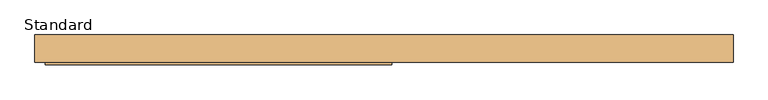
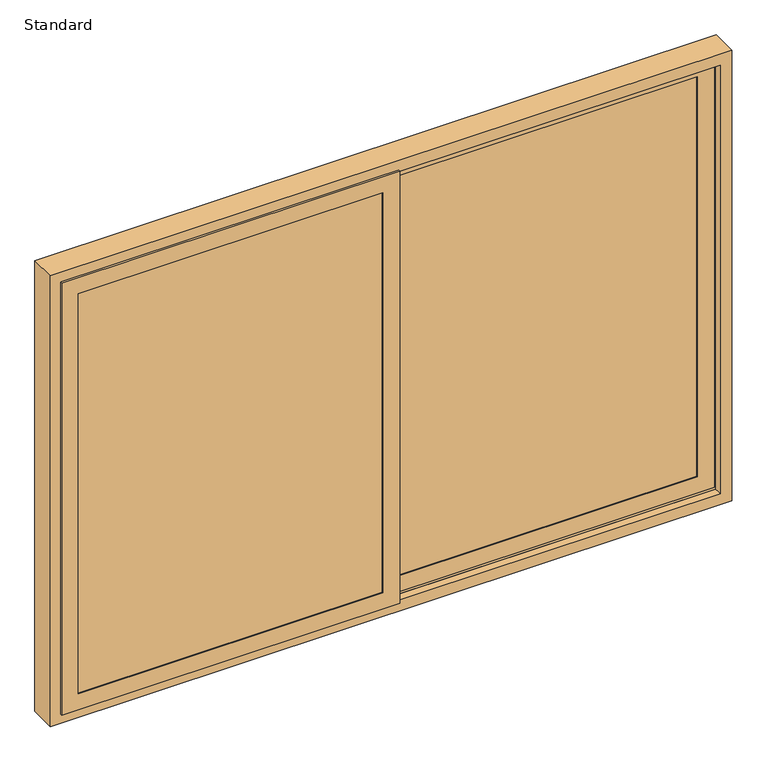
"""IFC4 building model written with IfcOpenShell, lengths in millimetres: door geometry, SMARTS_Visoglide Plus : Standard."""

from ifc_helpers import new_model, si_unit, frame, origin, place, context, project, spatial, polyline, outline, extrude, faceted_brep, source, transform, mapped, element, save


def standard_94ef009a(model_context):
    return source(origin(), model_context, "Body", "SolidModel", [
        extrude(outline(polyline([(1392.5, 67.0), (1392.5, 63.0), (26.5, 63.0), (26.5, 67.0), (1392.5, 67.0)])), frame((0.0, 0.0, 907.5), z_axis=(0.0, 0.0, 1.0), x_axis=(1.0, 0.0, 0.0)), (0.0, 0.0, 1.0), 1885.0),
        extrude(outline(polyline([(1392.5, 47.0), (1392.5, 43.0), (26.5, 43.0), (26.5, 47.0), (1392.5, 47.0)])), frame((0.0, 0.0, 907.5), z_axis=(0.0, 0.0, 1.0), x_axis=(1.0, 0.0, 0.0)), (0.0, 0.0, 1.0), 1885.0),
        extrude(outline(polyline([(2792.5, 1392.5), (2792.5, 26.5), (907.5, 26.5), (907.5, 1392.5), (2792.5, 1392.5)]), holes=[polyline([(2782.5, 36.5), (2782.5, 1382.5), (917.5, 1382.5), (917.5, 36.5), (2782.5, 36.5)])]), frame((0.0, 47.0, 0.0), z_axis=(0.0, 1.0, 0.0), x_axis=(0.0, 0.0, 1.0)), (0.0, 0.0, 1.0), 16.0),
        extrude(outline(polyline([(902.5, 1397.5), (2797.5, 1397.5), (2797.5, 21.5), (902.5, 21.5), (902.5, 1397.5)]), holes=[polyline([(2777.5, 1377.5), (922.5, 1377.5), (922.5, 41.5), (2777.5, 41.5), (2777.5, 1377.5)])]), frame((0.0, 74.0102223, 0.0), z_axis=(0.0, 1.0, 0.0), x_axis=(0.0, 0.0, 1.0)), (0.0, 0.0, 1.0), 11.9897777),
        extrude(outline(polyline([(848.5, 1451.5), (2851.5, 1451.5), (2851.5, -32.5), (848.5, -32.5), (848.5, 1451.5)]), holes=[polyline([(2797.5, 1397.5), (902.5, 1397.5), (902.5, 21.5), (2797.5, 21.5), (2797.5, 1397.5)])]), frame((0.0, 62.0, 0.0), z_axis=(0.0, 1.0, 0.0), x_axis=(0.0, 0.0, 1.0)), (0.0, 0.0, 1.0), 24.0),
        faceted_brep([(1377.5, 39.0, 2777.5), (1377.5, 39.0, 922.5), (1377.5, 35.0, 922.5), (1377.5, 35.0, 2777.5), (1400.5, 62.0, 2800.5), (1400.5, 62.0, 899.5), (1400.5, 39.0, 899.5), (1400.5, 39.0, 2800.5), (1451.5, 35.0, 2851.5), (1451.5, 35.0, 848.5), (1451.5, 62.0, 848.5), (1451.5, 62.0, 2851.5), (41.5, 39.0, 922.5), (41.5, 35.0, 922.5), (18.5, 62.0, 899.5), (18.5, 39.0, 899.5), (-32.5, 35.0, 848.5), (-32.5, 62.0, 848.5), (41.5, 39.0, 2777.5), (41.5, 35.0, 2777.5), (18.5, 62.0, 2800.5), (18.5, 39.0, 2800.5), (-32.5, 35.0, 2851.5), (-32.5, 62.0, 2851.5)], [[[0, 1, 2, 3]], [[4, 5, 6, 7]], [[8, 9, 10, 11]], [[1, 12, 13, 2]], [[5, 14, 15, 6]], [[9, 16, 17, 10]], [[12, 18, 19, 13]], [[14, 20, 21, 15]], [[16, 22, 23, 17]], [[9, 8, 22, 16], [3, 2, 13, 19]], [[18, 0, 3, 19]], [[7, 6, 15, 21], [1, 0, 18, 12]], [[20, 4, 7, 21]], [[11, 10, 17, 23], [5, 4, 20, 14]], [[22, 8, 11, 23]]]),
        extrude(outline(polyline([(-26.5, 0.0), (-26.5, -4.0), (-1392.5, -4.0), (-1392.5, 0.0), (-26.5, 0.0)])), frame((0.0, 0.0, 907.5), z_axis=(0.0, 0.0, 1.0), x_axis=(1.0, 0.0, 0.0)), (0.0, 0.0, 1.0), 1885.0),
        extrude(outline(polyline([(-26.5, -20.0), (-26.5, -24.0), (-1392.5, -24.0), (-1392.5, -20.0), (-26.5, -20.0)])), frame((0.0, 0.0, 907.5), z_axis=(0.0, 0.0, 1.0), x_axis=(1.0, 0.0, 0.0)), (0.0, 0.0, 1.0), 1885.0),
        extrude(outline(polyline([(2792.5, -26.5), (2792.5, -1392.5), (907.5, -1392.5), (907.5, -26.5), (2792.5, -26.5)]), holes=[polyline([(2782.5, -1382.5), (2782.5, -36.5), (917.5, -36.5), (917.5, -1382.5), (2782.5, -1382.5)])]), frame((0.0, -20.0, 0.0), z_axis=(0.0, 1.0, 0.0), x_axis=(0.0, 0.0, 1.0)), (0.0, 0.0, 1.0), 16.0),
        extrude(outline(polyline([(902.5, -21.5), (2797.5, -21.5), (2797.5, -1397.5), (902.5, -1397.5), (902.5, -21.5)]), holes=[polyline([(2777.5, -41.5), (922.5, -41.5), (922.5, -1377.5), (2777.5, -1377.5), (2777.5, -41.5)])]), frame((0.0, 7.0102223, 0.0), z_axis=(0.0, 1.0, 0.0), x_axis=(0.0, 0.0, 1.0)), (0.0, 0.0, 1.0), 11.9897777),
        extrude(outline(polyline([(848.5, 32.5), (2851.5, 32.5), (2851.5, -1451.5), (848.5, -1451.5), (848.5, 32.5)]), holes=[polyline([(2797.5, -21.5), (902.5, -21.5), (902.5, -1397.5), (2797.5, -1397.5), (2797.5, -21.5)])]), frame((0.0, -5.0, 0.0), z_axis=(0.0, 1.0, 0.0), x_axis=(0.0, 0.0, 1.0)), (0.0, 0.0, 1.0), 24.0),
        faceted_brep([(-41.5, -28.0, 2777.5), (-41.5, -28.0, 922.5), (-41.5, -32.0, 922.5), (-41.5, -32.0, 2777.5), (-18.5, -5.0, 2800.5), (-18.5, -5.0, 899.5), (-18.5, -28.0, 899.5), (-18.5, -28.0, 2800.5), (32.5, -32.0, 2851.5), (32.5, -32.0, 848.5), (32.5, -5.0, 848.5), (32.5, -5.0, 2851.5), (-1377.5, -28.0, 922.5), (-1377.5, -32.0, 922.5), (-1400.5, -5.0, 899.5), (-1400.5, -28.0, 899.5), (-1451.5, -32.0, 848.5), (-1451.5, -5.0, 848.5), (-1377.5, -28.0, 2777.5), (-1377.5, -32.0, 2777.5), (-1400.5, -5.0, 2800.5), (-1400.5, -28.0, 2800.5), (-1451.5, -32.0, 2851.5), (-1451.5, -5.0, 2851.5)], [[[0, 1, 2, 3]], [[4, 5, 6, 7]], [[8, 9, 10, 11]], [[1, 12, 13, 2]], [[5, 14, 15, 6]], [[9, 16, 17, 10]], [[12, 18, 19, 13]], [[14, 20, 21, 15]], [[16, 22, 23, 17]], [[9, 8, 22, 16], [3, 2, 13, 19]], [[18, 0, 3, 19]], [[7, 6, 15, 21], [1, 0, 18, 12]], [[20, 4, 7, 21]], [[11, 10, 17, 23], [5, 4, 20, 14]], [[22, 8, 11, 23]]]),
        faceted_brep([(1495.0, 95.0, 2895.0), (-1495.0, 95.0, 2895.0), (-1495.0, -22.7989407, 2895.0), (1495.0, -22.7989407, 2895.0), (1443.1999999, 91.0, 2843.1999999), (-1443.1999999, 91.0, 2843.1999999), (-1443.1999999, 95.0, 2843.1999999), (1443.1999999, 95.0, 2843.1999999), (1469.1999999, 76.3, 2869.1999999), (-1469.1999999, 76.3, 2869.1999999), (-1469.1999999, 91.0, 2869.1999999), (1469.1999999, 91.0, 2869.1999999), (1443.1999999, 43.7842251, 2843.1999999), (-1443.1999999, 43.7842251, 2843.1999999), (-1443.1999999, 76.3, 2843.1999999), (1443.1999999, 76.3, 2843.1999999), (1469.1999999, 9.7842251, 2869.1999999), (-1469.1999999, 9.7842251, 2869.1999999), (-1469.1999999, 43.7842251, 2869.1999999), (1469.1999999, 43.7842251, 2869.1999999), (1443.1999999, -22.7989407, 2843.1999999), (-1443.1999999, -22.7989407, 2843.1999999), (-1443.1999999, 9.7842251, 2843.1999999), (1443.1999999, 9.7842251, 2843.1999999), (-1495.0, 95.0, 805.0), (-1495.0, -22.7989407, 805.0), (-1443.1999999, 91.0, 856.8000001), (-1443.1999999, 95.0, 856.8000001), (-1469.1999999, 76.3, 830.8000001), (-1469.1999999, 91.0, 830.8000001), (-1443.1999999, 43.7842251, 856.8000001), (-1443.1999999, 76.3, 856.8000001), (-1469.1999999, 9.7842251, 830.8000001), (-1469.1999999, 43.7842251, 830.8000001), (-1443.1999999, -22.7989407, 856.8000001), (-1443.1999999, 9.7842251, 856.8000001), (1495.0, 95.0, 805.0), (1495.0, -22.7989407, 805.0), (1443.1999999, 91.0, 856.8000001), (1443.1999999, 95.0, 856.8000001), (1469.1999999, 76.3, 830.8000001), (1469.1999999, 91.0, 830.8000001), (1443.1999999, 43.7842251, 856.8000001), (1443.1999999, 76.3, 856.8000001), (1469.1999999, 9.7842251, 830.8000001), (1469.1999999, 43.7842251, 830.8000001), (1443.1999999, -22.7989407, 856.8000001), (1443.1999999, 9.7842251, 856.8000001)], [[[0, 1, 2, 3]], [[4, 5, 6, 7]], [[8, 9, 10, 11]], [[12, 13, 14, 15]], [[16, 17, 18, 19]], [[20, 21, 22, 23]], [[1, 24, 25, 2]], [[5, 26, 27, 6]], [[9, 28, 29, 10]], [[13, 30, 31, 14]], [[17, 32, 33, 18]], [[21, 34, 35, 22]], [[24, 36, 37, 25]], [[26, 38, 39, 27]], [[28, 40, 41, 29]], [[30, 42, 43, 31]], [[32, 44, 45, 33]], [[34, 46, 47, 35]], [[36, 0, 3, 37]], [[1, 0, 36, 24], [7, 6, 27, 39]], [[38, 4, 7, 39]], [[11, 10, 29, 41], [5, 4, 38, 26]], [[40, 8, 11, 41]], [[9, 8, 40, 28], [15, 14, 31, 43]], [[42, 12, 15, 43]], [[19, 18, 33, 45], [13, 12, 42, 30]], [[44, 16, 19, 45]], [[17, 16, 44, 32], [23, 22, 35, 47]], [[46, 20, 23, 47]], [[3, 2, 25, 37], [21, 20, 46, 34]]]),
    ])


if __name__ == "__main__":
    model = new_model("IFC4")
    model_context = context("Model", 3, world=origin())
    ifc_project = project(units=[si_unit("LENGTHUNIT", "METRE", prefix="MILLI")], contexts=[model_context])
    site = spatial("IfcSite", under=ifc_project)
    building = spatial("IfcBuilding", under=site)
    placement = place(None, origin())
    standard_shape = standard_94ef009a(model_context)
    element("IfcDoor", 1, ObjectType="SMARTS_Visoglide Plus : Standard", at=placement, inside=building, context=model_context, shape_type="MappedRepresentation", body=[
        mapped(standard_shape, transform((0.0, 0.0, 0.0), x_axis=(1.0, 0.0, 0.0), y_axis=(0.0, 1.0, 0.0), z_axis=(0.0, 0.0, 1.0))),
    ])
    save(model, "model.ifc")
